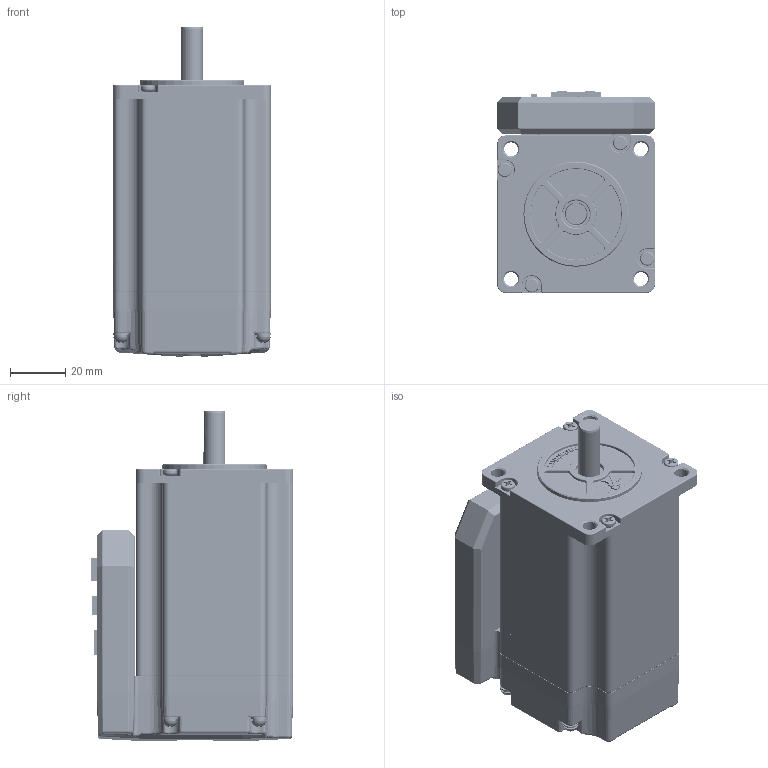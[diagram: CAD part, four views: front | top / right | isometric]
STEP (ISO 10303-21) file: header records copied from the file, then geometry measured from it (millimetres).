
FILE_DESCRIPTION((''),'2;1');
FILE_NAME('ICL57-RS23-ALL_ASM','2021-11-24T14:51:20',('chensf'),(''),'CREO PARAMETRIC BY PTC INC, 2019010','CREO PARAMETRIC BY PTC INC, 2019010','');
FILE_SCHEMA(('CONFIG_CONTROL_DESIGN','GEOMETRIC_VALIDATION_PROPERTIES_MIM'));
Products named in the file (41): LD823_M3X69_1; DG57HSD-005-S06_1; __12-__8-3_0_1; CG35SH_1; 608ZZ_1; ZZTX57HSD10_5-S1_1; GCP57HS_1; Z57HS76MD21B15-05_1; __12-__8-4_7_1; ZZ57HS076DF038X-S4_ASM_1_ASM_ASM; DZTX57HSD53-S1_1; CGCGT__14-__12-5_5_1; GJ57HSD26-S01_1; DG57HSD-004-S02_1; ASM0001_ASM_1_ASM_ASM; 57HS076DF038X-S4_ASM_1_ASM_ASM; ICL57-RS23-TOP; ICL57-RS23-BOT; ICL57-RS23-BACK; ICL57-RS23-BODY_ASM; 57-PCB1; 57-PCB2; 5P-PAIZHEN; 5P-PAIMU; 6P-PAIZHEN; 6P-PAIMU; EPUD; 2P-381; B04B-ZESK-1D; HEADER_2_0_4X; LED-RED; DIP_SWITCH_8PIN_VIC2; 57-PCB-ALL_ASM; D3_GB9074_26_11; D3_GB9074_24_14; M3X6; M3X6_GB9074_4_ASM; 26AWG; M3X8_GB818_9; M2-5_ASM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
Assembly tree (56 placements, depth 5):
  ICL57-RS23-ALL_ASM
    57HS076DF038X-S4_ASM_1_ASM_ASM
      ASM0001_ASM_1_ASM_ASM
        LD823_M3X69_1  x4
        DG57HSD-005-S06_1
        ZZ57HS076DF038X-S4_ASM_1_ASM_ASM
          __12-__8-3_0_1
          CG35SH_1  x2
          608ZZ_1  x2
          ZZTX57HSD10_5-S1_1  x4
          GCP57HS_1
          Z57HS76MD21B15-05_1
          __12-__8-4_7_1
        DZTX57HSD53-S1_1
        CGCGT__14-__12-5_5_1
        GJ57HSD26-S01_1  x2
        DG57HSD-004-S02_1
    ICL57-RS23-BODY_ASM
      ICL57-RS23-TOP
      ICL57-RS23-BOT
      ICL57-RS23-BACK
    57-PCB-ALL_ASM
      57-PCB1
      57-PCB2
      5P-PAIZHEN
      5P-PAIMU
      6P-PAIZHEN
      6P-PAIMU
      EPUD
      2P-381
      B04B-ZESK-1D  x2
      HEADER_2_0_4X
      LED-RED  x2
      DIP_SWITCH_8PIN_VIC2
    M3X6_GB9074_4_ASM  x4
      D3_GB9074_26_11
      D3_GB9074_24_14
      M3X6
    26AWG
    M2-5_ASM
      M3X8_GB818_9
      D3_GB9074_26_11
      D3_GB9074_24_14
Bounding box: 57.57 x 73.5 x 119.85 mm (x, y, z)
Volume: 227595.7 mm3; surface area: 190185.6 mm2
Topology: 57 solids, 57 shells, 6949 faces, 19177 edges, 12467 vertices
Faces by surface type: plane 3826, cylinder 2448, torus 211, cone 162, bspline 127, sphere 98, extrusion 77
Entity records: 183460 total; most frequent: CARTESIAN_POINT 35072, ORIENTED_EDGE 25750, DIRECTION 25207, EDGE_CURVE 12875, VECTOR 8779, LINE 8702, VERTEX_POINT 8315, AXIS2_PLACEMENT_3D 8214
